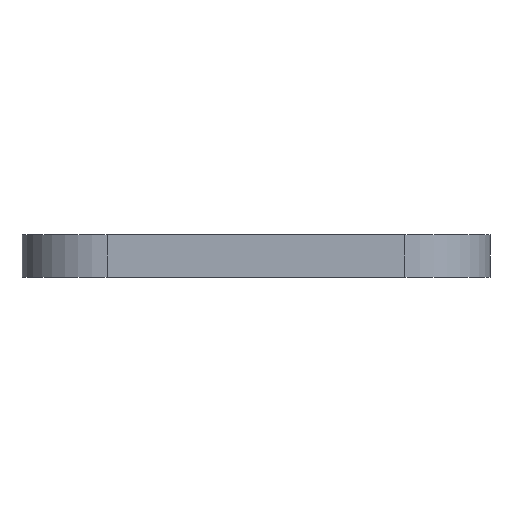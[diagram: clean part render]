
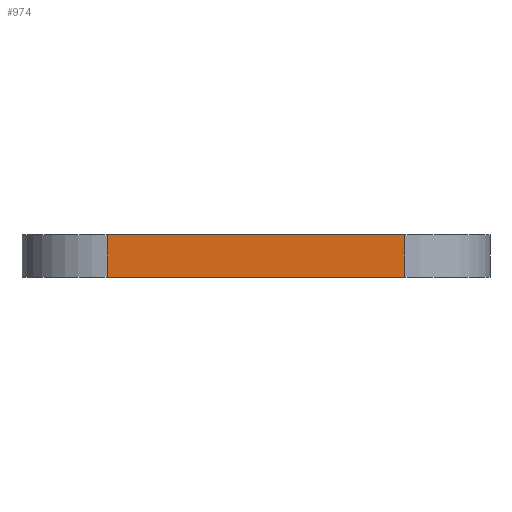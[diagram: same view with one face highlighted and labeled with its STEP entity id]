
A CAD part, front view. The second image highlights one B-rep face of the part: STEP entity #974.
In plain terms, the highlighted planar face has unit normal (0, -1, 0).
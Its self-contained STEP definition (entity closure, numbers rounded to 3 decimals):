
#44 = PLANE('',#45);
#45 = AXIS2_PLACEMENT_3D('',#46,#47,#48);
#46 = CARTESIAN_POINT('',(-22.,-48.,126.));
#47 = DIRECTION('',(0.,0.,1.));
#48 = DIRECTION('',(1.,0.,0.));
#72 = CYLINDRICAL_SURFACE('',#73,8.);
#73 = AXIS2_PLACEMENT_3D('',#74,#75,#76);
#74 = CARTESIAN_POINT('',(-14.,-40.,122.));
#75 = DIRECTION('',(0.,0.,1.));
#76 = DIRECTION('',(-1.,-0.,0.));
#100 = PLANE('',#101);
#101 = AXIS2_PLACEMENT_3D('',#102,#103,#104);
#102 = CARTESIAN_POINT('',(-22.,-48.,122.));
#103 = DIRECTION('',(0.,0.,1.));
#104 = DIRECTION('',(1.,0.,0.));
#143 = VERTEX_POINT('',#144);
#144 = CARTESIAN_POINT('',(-14.,-48.,126.));
#166 = EDGE_CURVE('',#143,#167,#169,.T.);
#167 = VERTEX_POINT('',#168);
#168 = CARTESIAN_POINT('',(14.,-48.,126.));
#169 = SURFACE_CURVE('',#170,(#174,#181),.PCURVE_S1.);
#170 = LINE('',#171,#172);
#171 = CARTESIAN_POINT('',(-22.,-48.,126.));
#172 = VECTOR('',#173,1.);
#173 = DIRECTION('',(1.,0.,0.));
#174 = PCURVE('',#44,#175);
#175 = DEFINITIONAL_REPRESENTATION('',(#176),#180);
#176 = LINE('',#177,#178);
#177 = CARTESIAN_POINT('',(0.,0.));
#178 = VECTOR('',#179,1.);
#179 = DIRECTION('',(1.,0.));
#180 = ( GEOMETRIC_REPRESENTATION_CONTEXT(2) 
PARAMETRIC_REPRESENTATION_CONTEXT() REPRESENTATION_CONTEXT('2D SPACE',''
  ) );
#181 = PCURVE('',#182,#187);
#182 = PLANE('',#183);
#183 = AXIS2_PLACEMENT_3D('',#184,#185,#186);
#184 = CARTESIAN_POINT('',(-22.,-48.,122.));
#185 = DIRECTION('',(0.,1.,0.));
#186 = DIRECTION('',(0.,0.,1.));
#187 = DEFINITIONAL_REPRESENTATION('',(#188),#192);
#188 = LINE('',#189,#190);
#189 = CARTESIAN_POINT('',(4.,0.));
#190 = VECTOR('',#191,1.);
#191 = DIRECTION('',(0.,1.));
#192 = ( GEOMETRIC_REPRESENTATION_CONTEXT(2) 
PARAMETRIC_REPRESENTATION_CONTEXT() REPRESENTATION_CONTEXT('2D SPACE',''
  ) );
#215 = CYLINDRICAL_SURFACE('',#216,8.);
#216 = AXIS2_PLACEMENT_3D('',#217,#218,#219);
#217 = CARTESIAN_POINT('',(14.,-40.,122.));
#218 = DIRECTION('',(0.,0.,1.));
#219 = DIRECTION('',(1.,0.,-0.));
#566 = VERTEX_POINT('',#567);
#567 = CARTESIAN_POINT('',(-14.,-48.,122.));
#589 = EDGE_CURVE('',#566,#143,#590,.T.);
#590 = SURFACE_CURVE('',#591,(#595,#602),.PCURVE_S1.);
#591 = LINE('',#592,#593);
#592 = CARTESIAN_POINT('',(-14.,-48.,122.));
#593 = VECTOR('',#594,1.);
#594 = DIRECTION('',(0.,0.,1.));
#595 = PCURVE('',#72,#596);
#596 = DEFINITIONAL_REPRESENTATION('',(#597),#601);
#597 = LINE('',#598,#599);
#598 = CARTESIAN_POINT('',(1.571,0.));
#599 = VECTOR('',#600,1.);
#600 = DIRECTION('',(0.,1.));
#601 = ( GEOMETRIC_REPRESENTATION_CONTEXT(2) 
PARAMETRIC_REPRESENTATION_CONTEXT() REPRESENTATION_CONTEXT('2D SPACE',''
  ) );
#602 = PCURVE('',#182,#603);
#603 = DEFINITIONAL_REPRESENTATION('',(#604),#608);
#604 = LINE('',#605,#606);
#605 = CARTESIAN_POINT('',(0.,8.));
#606 = VECTOR('',#607,1.);
#607 = DIRECTION('',(1.,0.));
#608 = ( GEOMETRIC_REPRESENTATION_CONTEXT(2) 
PARAMETRIC_REPRESENTATION_CONTEXT() REPRESENTATION_CONTEXT('2D SPACE',''
  ) );
#671 = EDGE_CURVE('',#566,#672,#674,.T.);
#672 = VERTEX_POINT('',#673);
#673 = CARTESIAN_POINT('',(14.,-48.,122.));
#674 = SURFACE_CURVE('',#675,(#679,#686),.PCURVE_S1.);
#675 = LINE('',#676,#677);
#676 = CARTESIAN_POINT('',(-22.,-48.,122.));
#677 = VECTOR('',#678,1.);
#678 = DIRECTION('',(1.,0.,0.));
#679 = PCURVE('',#100,#680);
#680 = DEFINITIONAL_REPRESENTATION('',(#681),#685);
#681 = LINE('',#682,#683);
#682 = CARTESIAN_POINT('',(0.,0.));
#683 = VECTOR('',#684,1.);
#684 = DIRECTION('',(1.,0.));
#685 = ( GEOMETRIC_REPRESENTATION_CONTEXT(2) 
PARAMETRIC_REPRESENTATION_CONTEXT() REPRESENTATION_CONTEXT('2D SPACE',''
  ) );
#686 = PCURVE('',#182,#687);
#687 = DEFINITIONAL_REPRESENTATION('',(#688),#692);
#688 = LINE('',#689,#690);
#689 = CARTESIAN_POINT('',(0.,0.));
#690 = VECTOR('',#691,1.);
#691 = DIRECTION('',(0.,1.));
#692 = ( GEOMETRIC_REPRESENTATION_CONTEXT(2) 
PARAMETRIC_REPRESENTATION_CONTEXT() REPRESENTATION_CONTEXT('2D SPACE',''
  ) );
#974 = ADVANCED_FACE('',(#975),#182,.F.);
#975 = FACE_BOUND('',#976,.F.);
#976 = EDGE_LOOP('',(#977,#978,#979,#980));
#977 = ORIENTED_EDGE('',*,*,#671,.F.);
#978 = ORIENTED_EDGE('',*,*,#589,.T.);
#979 = ORIENTED_EDGE('',*,*,#166,.T.);
#980 = ORIENTED_EDGE('',*,*,#981,.F.);
#981 = EDGE_CURVE('',#672,#167,#982,.T.);
#982 = SURFACE_CURVE('',#983,(#987,#994),.PCURVE_S1.);
#983 = LINE('',#984,#985);
#984 = CARTESIAN_POINT('',(14.,-48.,122.));
#985 = VECTOR('',#986,1.);
#986 = DIRECTION('',(0.,0.,1.));
#987 = PCURVE('',#182,#988);
#988 = DEFINITIONAL_REPRESENTATION('',(#989),#993);
#989 = LINE('',#990,#991);
#990 = CARTESIAN_POINT('',(0.,36.));
#991 = VECTOR('',#992,1.);
#992 = DIRECTION('',(1.,0.));
#993 = ( GEOMETRIC_REPRESENTATION_CONTEXT(2) 
PARAMETRIC_REPRESENTATION_CONTEXT() REPRESENTATION_CONTEXT('2D SPACE',''
  ) );
#994 = PCURVE('',#215,#995);
#995 = DEFINITIONAL_REPRESENTATION('',(#996),#1000);
#996 = LINE('',#997,#998);
#997 = CARTESIAN_POINT('',(-1.571,0.));
#998 = VECTOR('',#999,1.);
#999 = DIRECTION('',(-0.,1.));
#1000 = ( GEOMETRIC_REPRESENTATION_CONTEXT(2) 
PARAMETRIC_REPRESENTATION_CONTEXT() REPRESENTATION_CONTEXT('2D SPACE',''
  ) );
